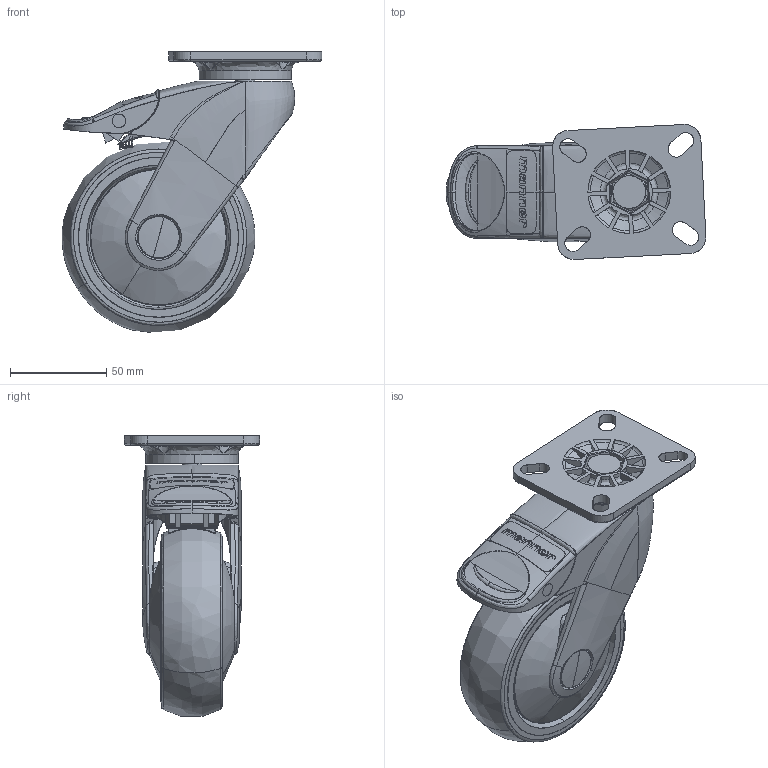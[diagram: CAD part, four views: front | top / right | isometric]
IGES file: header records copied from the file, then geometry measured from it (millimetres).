
Start section: SolidWorks IGES file using analytic representation for surfaces
Global section: file name: S:\Tyokansio\VL\301795_IGES.IGS; native system: SolidWorks 2011; preprocessor: SolidWorks 2011; author: VilleLa; date: 110621.114953; units: millimetre
Bounding box: 134.75 x 70.02 x 145.61 mm (x, y, z)
Surface area: 96772.5 mm2 (no closed solid volume)
Topology: 0 solids, 0 shells, 821 faces, 14087 edges, 14049 vertices
Faces by surface type: bspline 600, revolution 221
